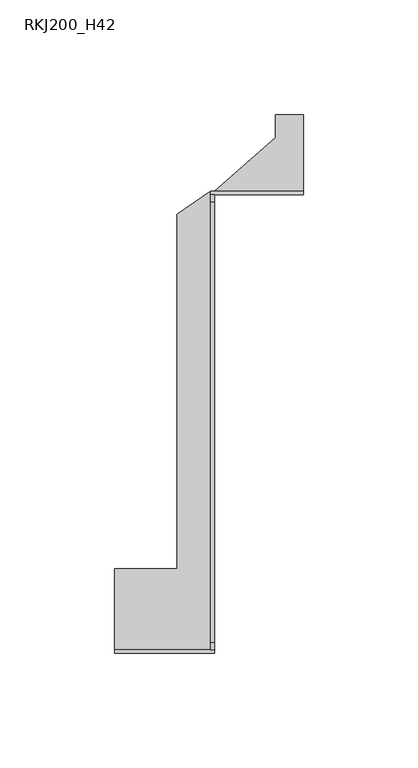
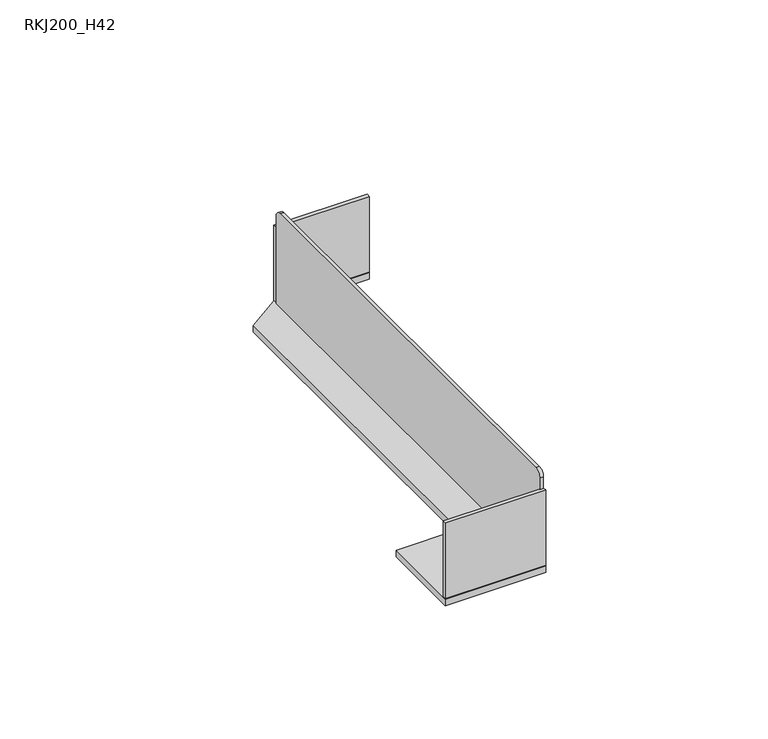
"""IFC4 building model written with IfcOpenShell, lengths in millimetres: cable carrier fitting geometry, BAKS_Angle reducer : RKJ200_H42."""

from ifc_helpers import new_model, si_unit, point, frame, frame_2d, origin, place, context, project, spatial, polyline, circle_curve, trimmed, segment, composite_curve, outline, extrude, source, transform, mapped, element, save


def rkj200_h42_37d9c611(model_context):
    return source(origin(), model_context, "Body", "SweptSolid", [
        extrude(outline(polyline([(40.5, 83.375), (40.5, 48.375), (1.625, 48.375), (1.625, 50.0), (28.2962179, 73.375), (28.2962179, 83.375), (40.5, 83.375)])), frame((0.0, 0.0, -24.0), z_axis=(0.0, 0.0, 1.0), x_axis=(1.0, 0.0, 0.0)), (0.0, 0.0, 1.0), 3.0),
        extrude(outline(composite_curve([segment(polyline([(-147.0, 22.0), (45.375, 22.0)]), True, "CONTINUOUS"), segment(trimmed(circle_curve(frame_2d((45.375, 19.0)), 3.0), [point((45.375, 22.0))], [point((48.375, 19.0))], False, "CARTESIAN"), True, "CONTINUOUS"), segment(polyline([(48.375, 19.0), (48.375, -21.0), (-150.0, -21.0), (-150.0, 19.0)]), True, "CONTINUOUS"), segment(trimmed(circle_curve(frame_2d((-147.0, 19.0)), 3.0), [point((-150.0, 19.0))], [point((-147.0, 22.0))], False, "CARTESIAN"), True, "CONTINUOUS")], self_intersect=False)), frame((0.0, 0.0, 0.0), z_axis=(1.0, 0.0, 0.0), x_axis=(0.0, 1.0, 0.0)), (0.0, 0.0, 1.0), 1.625),
        extrude(outline(polyline([(-14.655422, 40.0), (0.0, 50.0), (1.625, 50.0), (1.625, -151.625), (-42.0, -151.625), (-42.0, -114.625), (-14.655422, -114.625), (-14.655422, 40.0)])), frame((0.0, 0.0, -24.0), z_axis=(0.0, 0.0, 1.0), x_axis=(1.0, 0.0, 0.0)), (0.0, 0.0, 1.0), 3.0),
        extrude(outline(polyline([(0.0, 50.0), (40.5, 50.0), (40.5, 48.375), (0.0, 48.375), (0.0, 50.0)])), frame((0.0, 0.0, -21.0), z_axis=(0.0, 0.0, 1.0), x_axis=(1.0, 0.0, 0.0)), (0.0, 0.0, 1.0), 35.0),
        extrude(outline(polyline([(1.625, -150.0), (1.625, -151.625), (-42.0, -151.625), (-42.0, -150.0), (1.625, -150.0)])), frame((0.0, 0.0, -21.0), z_axis=(0.0, 0.0, 1.0), x_axis=(1.0, 0.0, 0.0)), (0.0, 0.0, 1.0), 35.0),
    ])


if __name__ == "__main__":
    model = new_model("IFC4")
    model_context = context("Model", 3, world=origin())
    ifc_project = project(units=[si_unit("LENGTHUNIT", "METRE", prefix="MILLI")], contexts=[model_context])
    site = spatial("IfcSite", under=ifc_project)
    building = spatial("IfcBuilding", under=site)
    placement = place(None, origin())
    rkj200_h42_shape = rkj200_h42_37d9c611(model_context)
    element("IfcCableCarrierFitting", 1, ObjectType="BAKS_Angle reducer : RKJ200_H42", at=placement, inside=building, context=model_context, shape_type="MappedRepresentation", body=[
        mapped(rkj200_h42_shape, transform((0.0, 0.0, 0.0), x_axis=(1.0, 0.0, 0.0), y_axis=(0.0, 1.0, 0.0), z_axis=(0.0, 0.0, 1.0))),
    ])
    save(model, "model.ifc")
